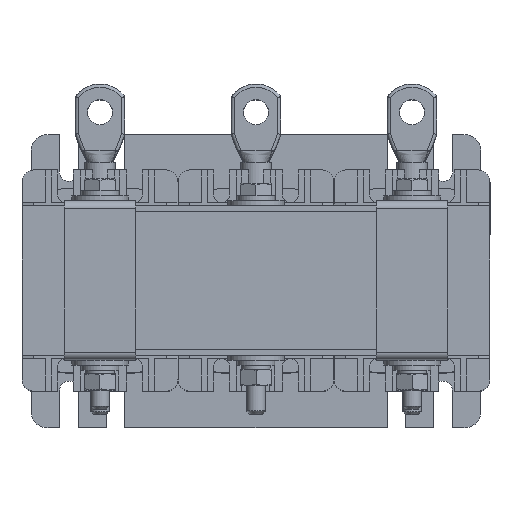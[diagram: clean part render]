
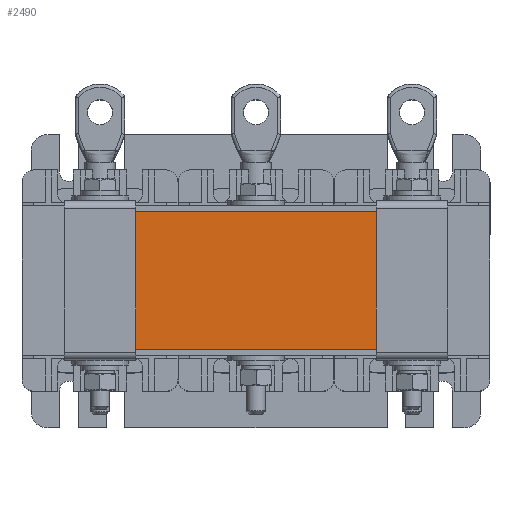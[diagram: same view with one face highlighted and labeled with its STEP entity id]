
A CAD part, top view. The second image highlights one B-rep face of the part: STEP entity #2490.
In plain terms, the highlighted planar face has unit normal (0, 0, 1).
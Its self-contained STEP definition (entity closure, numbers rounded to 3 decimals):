
#2490=ADVANCED_FACE('',(#3502),#3504,.T.);
#3502=FACE_BOUND('',#3503,.T.);
#3503=EDGE_LOOP('',(#6508,#6509,#6510,#6511));
#3504=PLANE('',#3505);
#3505=AXIS2_PLACEMENT_3D('',#3506,#3507,#3508);
#3506=CARTESIAN_POINT('',(0.,0.,127.1));
#3507=DIRECTION('',(0.,0.,1.));
#3508=DIRECTION('',(-1.,0.,0.));
#6508=ORIENTED_EDGE('',*,*,#7816,.T.);
#6509=ORIENTED_EDGE('',*,*,#7820,.T.);
#6510=ORIENTED_EDGE('',*,*,#7823,.T.);
#6511=ORIENTED_EDGE('',*,*,#7825,.T.);
#7816=EDGE_CURVE('',#8540,#8538,#8541,.T.);
#7820=EDGE_CURVE('',#8538,#8545,#8547,.T.);
#7823=EDGE_CURVE('',#8545,#8550,#8552,.T.);
#7825=EDGE_CURVE('',#8550,#8540,#8554,.T.);
#8538=VERTEX_POINT('',#9793);
#8540=VERTEX_POINT('',#9797);
#8541=LINE('',#9798,#9799);
#8545=VERTEX_POINT('',#9808);
#8547=LINE('',#9812,#9813);
#8550=VERTEX_POINT('',#9819);
#8552=LINE('',#9823,#9824);
#8554=LINE('',#9829,#9830);
#9793=CARTESIAN_POINT('',(-61.5,22.,127.1));
#9797=CARTESIAN_POINT('',(61.5,22.,127.1));
#9798=CARTESIAN_POINT('',(61.5,22.,127.1));
#9799=VECTOR('',#9800,1.);
#9800=DIRECTION('',(-1.,0.,0.));
#9808=CARTESIAN_POINT('',(-61.5,-22.,127.1));
#9812=CARTESIAN_POINT('',(-61.5,22.,127.1));
#9813=VECTOR('',#9814,1.);
#9814=DIRECTION('',(0.,-1.,0.));
#9819=CARTESIAN_POINT('',(61.5,-22.,127.1));
#9823=CARTESIAN_POINT('',(-61.5,-22.,127.1));
#9824=VECTOR('',#9825,1.);
#9825=DIRECTION('',(1.,0.,0.));
#9829=CARTESIAN_POINT('',(61.5,-22.,127.1));
#9830=VECTOR('',#9831,1.);
#9831=DIRECTION('',(0.,1.,0.));
